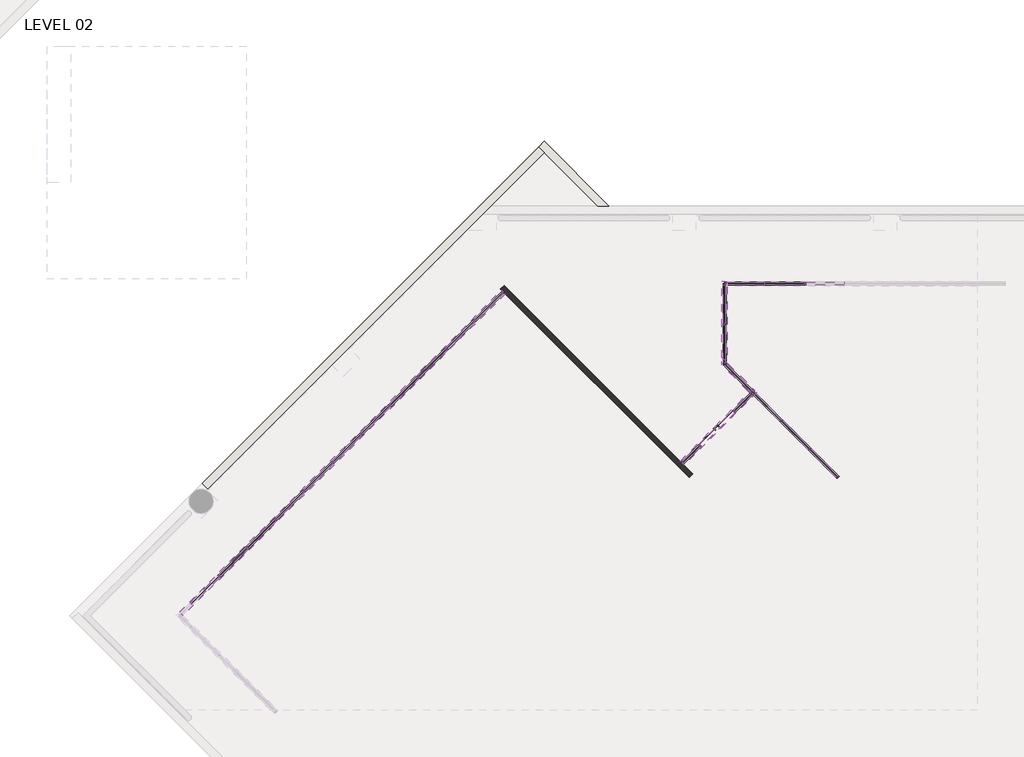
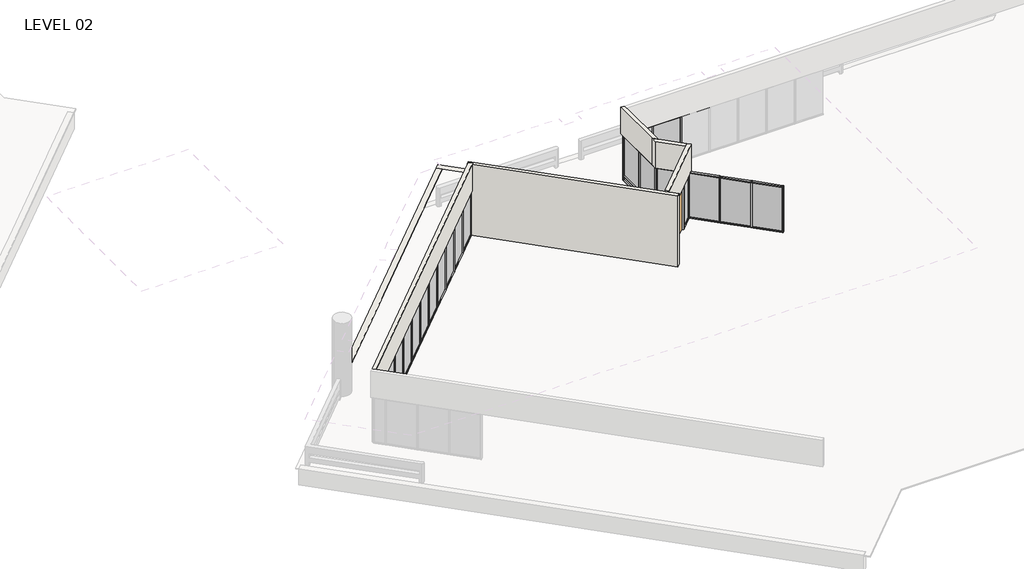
# One storey, part 7 of 19: 81 members, 21 plates, 7 walls, 1 door.
"""IFC4 building model written with IfcOpenShell, lengths in millimetres."""

from ifc_helpers import new_model, si_unit, frame, origin, place, context, project, spatial, polyline, outline, extrude, faceted_brep, transform, mapped, element, save
from components import curtain_wall_dbl_glass_curtain_wall_dbl_glass_222e0a92, member_5247f267, member_e44af9ab, member_800970d4, member_35b16393, member_cca1f9e6, member_67d17f7f, member_d5560c68, member_05e6bac6, plate_67294edd, plate_aaac5d3d, plate_5a14c350, plate_4fb64caf, plate_748a28b9

model = new_model("IFC4")

# Units and contexts
model_context = context("Model", 3, world=origin())
ifc_project = project(units=[si_unit("LENGTHUNIT", "METRE", prefix="MILLI")], contexts=[model_context])

# Site, building, storey
site = spatial("IfcSite", under=ifc_project)
building = spatial("IfcBuilding", under=site)
storey = spatial("IfcBuildingStorey", under=building, Name="LEVEL 02", Elevation=4140.2)

# Door
placement = place(None, origin())
curtain_wall_dbl_glass_curtain_wall_dbl_glass_shape = curtain_wall_dbl_glass_curtain_wall_dbl_glass_222e0a92(model_context)
element("IfcDoor", 1, ObjectType="Curtain Wall Dbl Glass : Curtain Wall Dbl Glass", at=placement, inside=storey, context=model_context, shape_type="MappedRepresentation", body=[
    mapped(curtain_wall_dbl_glass_curtain_wall_dbl_glass_shape, transform((19633.6601484, 17599.7315515, 4140.2), x_axis=(-0.7071067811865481, -0.7071067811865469, 0.0), y_axis=(0.7071067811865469, -0.7071067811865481, 0.0), z_axis=(0.0, 0.0, 1.0))),
])

# Members
member_shape = member_5247f267(model_context)
element("IfcMember", 2, ObjectType="Rectangular Mullion : 2\" x 4.5\" rectangular", at=placement, inside=storey, context=model_context, shape_type="MappedRepresentation", body=[
    mapped(member_shape, transform((772.3020264, 12012.4904011, 4140.2), x_axis=(0.0, 0.0, -1.0), y_axis=(0.7071067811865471, -0.707106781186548, 0.0), z_axis=(-0.7071067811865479, -0.707106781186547, 0.0))),
])
element("IfcMember", 3, ObjectType="Rectangular Mullion : 2\" x 4.5\" rectangular", at=placement, inside=storey, context=model_context, shape_type="MappedRepresentation", body=[
    mapped(member_shape, transform((4005.1646265, 15245.3530013, 4140.2), x_axis=(0.0, 0.0, -1.0), y_axis=(0.7071067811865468, -0.7071067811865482, 0.0), z_axis=(-0.7071067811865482, -0.7071067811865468, 0.0))),
])
element("IfcMember", 4, ObjectType="Rectangular Mullion : 2\" x 4.5\" rectangular", at=placement, inside=storey, context=model_context, shape_type="MappedRepresentation", body=[
    mapped(member_shape, transform((6160.3964921, 17400.5848669, 4140.2), x_axis=(0.0, 0.0, -1.0), y_axis=(0.7071067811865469, -0.7071067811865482, 0.0), z_axis=(-0.7071067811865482, -0.7071067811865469, 0.0))),
])
element("IfcMember", 5, ObjectType="Rectangular Mullion : 2\" x 4.5\" rectangular", at=placement, inside=storey, context=model_context, shape_type="MappedRepresentation", body=[
    mapped(member_shape, transform((7238.012425, 18478.2007997, 4140.2), x_axis=(0.0, 0.0, -1.0), y_axis=(0.7071067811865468, -0.7071067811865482, 0.0), z_axis=(-0.7071067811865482, -0.7071067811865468, 0.0))),
])
element("IfcMember", 6, ObjectType="Rectangular Mullion : 2\" x 4.5\" rectangular", at=placement, inside=storey, context=model_context, shape_type="MappedRepresentation", body=[
    mapped(member_shape, transform((9393.273894, 20633.4622687, 4140.2), x_axis=(0.0, 0.0, -1.0), y_axis=(0.7071067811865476, -0.7071067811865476, 0.0), z_axis=(-0.7071067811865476, -0.7071067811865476, 0.0))),
])
element("IfcMember", 7, ObjectType="Rectangular Mullion : 2\" x 4.5\" rectangular", at=placement, inside=storey, context=model_context, shape_type="MappedRepresentation", body=[
    mapped(member_shape, transform((1849.9327609, 13090.1211357, 4140.2), x_axis=(0.0, 0.0, -1.0), y_axis=(0.7071067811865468, -0.7071067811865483, 0.0), z_axis=(-0.7071067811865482, -0.7071067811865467, 0.0))),
])
element("IfcMember", 8, ObjectType="Rectangular Mullion : 2\" x 4.5\" rectangular", at=placement, inside=storey, context=model_context, shape_type="MappedRepresentation", body=[
    mapped(member_shape, transform((5082.7805593, 16322.9689341, 4140.2), x_axis=(0.0, 0.0, -1.0), y_axis=(0.7071067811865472, -0.7071067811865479, 0.0), z_axis=(-0.7071067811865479, -0.7071067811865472, 0.0))),
])
element("IfcMember", 9, ObjectType="Rectangular Mullion : 2\" x 4.5\" rectangular", at=placement, inside=storey, context=model_context, shape_type="MappedRepresentation", body=[
    mapped(member_shape, transform((2927.5486937, 14167.7370685, 4140.2), x_axis=(0.0, 0.0, -1.0), y_axis=(0.7071067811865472, -0.7071067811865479, 0.0), z_axis=(-0.7071067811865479, -0.7071067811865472, 0.0))),
])
element("IfcMember", 10, ObjectType="Rectangular Mullion : 2\" x 4.5\" rectangular", at=placement, inside=storey, context=model_context, shape_type="MappedRepresentation", body=[
    mapped(member_shape, transform((8315.6431595, 19555.8315342, 4140.2), x_axis=(0.0, 0.0, -1.0), y_axis=(0.7071067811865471, -0.7071067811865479, 0.0), z_axis=(-0.7071067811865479, -0.7071067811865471, 0.0))),
])
element("IfcMember", 11, ObjectType="Rectangular Mullion : 2\" x 4.5\" rectangular", at=placement, inside=storey, context=model_context, shape_type="MappedRepresentation", body=[
    mapped(member_shape, transform((22942.55, 23089.2828721, 4140.2), x_axis=(0.0, 0.0, -1.0), y_axis=(0.0, 1.0, 0.0), z_axis=(1.0, 0.0, 0.0))),
])
element("IfcMember", 12, ObjectType="Rectangular Mullion : 2\" x 4.5\" rectangular", at=placement, inside=storey, context=model_context, shape_type="MappedRepresentation", body=[
    mapped(member_shape, transform((21015.5412468, 18945.6916253, 4140.2), x_axis=(0.0, 0.0, -1.0), y_axis=(-0.7071067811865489, -0.7071067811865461, 0.0), z_axis=(-0.7071067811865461, 0.7071067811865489, 0.0))),
])
element("IfcMember", 13, ObjectType="Rectangular Mullion : 2\" x 4.5\" rectangular", at=placement, inside=storey, context=model_context, shape_type="MappedRepresentation", body=[
    mapped(member_shape, transform((22093.1719813, 17868.0608908, 4140.2), x_axis=(0.0, 0.0, -1.0), y_axis=(-0.7071067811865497, -0.7071067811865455, 0.0), z_axis=(-0.7071067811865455, 0.7071067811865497, 0.0))),
])
element("IfcMember", 14, ObjectType="Rectangular Mullion : 2\" x 4.5\" rectangular", at=placement, inside=storey, context=model_context, shape_type="MappedRepresentation", body=[
    mapped(member_shape, transform((736.3810019, 11976.5693766, 6731.0), x_axis=(0.0, 0.0, 1.0), y_axis=(0.7071067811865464, -0.7071067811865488, 0.0), z_axis=(0.7071067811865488, 0.7071067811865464, 0.0))),
])
element("IfcMember", 15, ObjectType="Rectangular Mullion : 2\" x 4.5\" rectangular", at=placement, inside=storey, context=model_context, shape_type="MappedRepresentation", body=[
    mapped(member_shape, transform((3969.2436021, 15209.4319768, 6731.0), x_axis=(0.0, 0.0, 1.0), y_axis=(0.7071067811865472, -0.7071067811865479, 0.0), z_axis=(0.7071067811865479, 0.7071067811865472, 0.0))),
])
element("IfcMember", 16, ObjectType="Rectangular Mullion : 2\" x 4.5\" rectangular", at=placement, inside=storey, context=model_context, shape_type="MappedRepresentation", body=[
    mapped(member_shape, transform((6124.4754677, 17364.6638424, 6731.0), x_axis=(0.0, 0.0, 1.0), y_axis=(0.7071067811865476, -0.7071067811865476, 0.0), z_axis=(0.7071067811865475, 0.7071067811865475, 0.0))),
])
element("IfcMember", 17, ObjectType="Rectangular Mullion : 2\" x 4.5\" rectangular", at=placement, inside=storey, context=model_context, shape_type="MappedRepresentation", body=[
    mapped(member_shape, transform((7202.0914005, 18442.2797752, 6731.0), x_axis=(0.0, 0.0, 1.0), y_axis=(0.7071067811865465, -0.7071067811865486, 0.0), z_axis=(0.7071067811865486, 0.7071067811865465, 0.0))),
])
element("IfcMember", 18, ObjectType="Rectangular Mullion : 2\" x 4.5\" rectangular", at=placement, inside=storey, context=model_context, shape_type="MappedRepresentation", body=[
    mapped(member_shape, transform((9357.3528695, 20597.5412442, 6731.0), x_axis=(0.0, 0.0, 1.0), y_axis=(0.7071067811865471, -0.7071067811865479, 0.0), z_axis=(0.7071067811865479, 0.7071067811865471, 0.0))),
])
element("IfcMember", 19, ObjectType="Rectangular Mullion : 2\" x 4.5\" rectangular", at=placement, inside=storey, context=model_context, shape_type="MappedRepresentation", body=[
    mapped(member_shape, transform((1814.0117365, 13054.2001112, 6731.0), x_axis=(0.0, 0.0, 1.0), y_axis=(0.7071067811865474, -0.7071067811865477, 0.0), z_axis=(0.7071067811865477, 0.7071067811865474, 0.0))),
])
element("IfcMember", 20, ObjectType="Rectangular Mullion : 2\" x 4.5\" rectangular", at=placement, inside=storey, context=model_context, shape_type="MappedRepresentation", body=[
    mapped(member_shape, transform((5046.8595349, 16287.0479096, 6731.0), x_axis=(0.0, 0.0, 1.0), y_axis=(0.7071067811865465, -0.7071067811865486, 0.0), z_axis=(0.7071067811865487, 0.7071067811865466, 0.0))),
])
element("IfcMember", 21, ObjectType="Rectangular Mullion : 2\" x 4.5\" rectangular", at=placement, inside=storey, context=model_context, shape_type="MappedRepresentation", body=[
    mapped(member_shape, transform((2891.6276693, 14131.816044, 6731.0), x_axis=(0.0, 0.0, 1.0), y_axis=(0.7071067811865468, -0.7071067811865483, 0.0), z_axis=(0.7071067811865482, 0.7071067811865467, 0.0))),
])
element("IfcMember", 22, ObjectType="Rectangular Mullion : 2\" x 4.5\" rectangular", at=placement, inside=storey, context=model_context, shape_type="MappedRepresentation", body=[
    mapped(member_shape, transform((8279.722135, 19519.9105097, 6731.0), x_axis=(0.0, 0.0, 1.0), y_axis=(0.7071067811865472, -0.7071067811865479, 0.0), z_axis=(0.7071067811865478, 0.7071067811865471, 0.0))),
])
element("IfcMember", 23, ObjectType="Rectangular Mullion : 2\" x 4.5\" rectangular", at=placement, inside=storey, context=model_context, shape_type="MappedRepresentation", body=[
    mapped(member_shape, transform((10434.9836041, 21675.1719788, 6731.0), x_axis=(0.0, 0.0, 1.0), y_axis=(0.7071067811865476, -0.7071067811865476, 0.0), z_axis=(0.7071067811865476, 0.7071067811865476, 0.0))),
])
element("IfcMember", 24, ObjectType="Rectangular Mullion : 2\" x 4.5\" rectangular", at=placement, inside=storey, context=model_context, shape_type="MappedRepresentation", body=[
    mapped(member_shape, transform((21469.35, 23089.2828721, 6731.0), x_axis=(0.0, 0.0, 1.0), y_axis=(0.0, 1.0, 0.0), z_axis=(-1.0, 0.0, 0.0))),
])
element("IfcMember", 25, ObjectType="Rectangular Mullion : 2\" x 4.5\" rectangular", at=placement, inside=storey, context=model_context, shape_type="MappedRepresentation", body=[
    mapped(member_shape, transform((22993.35, 23089.2828721, 6731.0), x_axis=(0.0, 0.0, 1.0), y_axis=(0.0, 1.0, 0.0), z_axis=(-1.0, 0.0, 0.0))),
])
element("IfcMember", 26, ObjectType="Rectangular Mullion : 2\" x 4.5\" rectangular", at=placement, inside=storey, context=model_context, shape_type="MappedRepresentation", body=[
    mapped(member_shape, transform((23134.8816913, 16826.3511808, 6731.0), x_axis=(0.0, 0.0, 1.0), y_axis=(-0.7071067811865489, -0.7071067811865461, 0.0), z_axis=(0.7071067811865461, -0.7071067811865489, 0.0))),
])
element("IfcMember", 27, ObjectType="Rectangular Mullion : 2\" x 4.5\" rectangular", at=placement, inside=storey, context=model_context, shape_type="MappedRepresentation", body=[
    mapped(member_shape, transform((22057.2509568, 17903.9819153, 6731.0), x_axis=(0.0, 0.0, 1.0), y_axis=(-0.7071067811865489, -0.7071067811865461, 0.0), z_axis=(0.7071067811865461, -0.7071067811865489, 0.0))),
])
member_2_shape = member_e44af9ab(model_context)
element("IfcMember", 28, ObjectType="Rectangular Mullion : 2\" x 4.5\" rectangular", at=placement, inside=storey, context=model_context, shape_type="MappedRepresentation", body=[
    mapped(member_2_shape, transform((754.3415142, 11994.5298889, 4140.2), x_axis=(0.7071067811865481, 0.7071067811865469, 0.0), y_axis=(0.7071067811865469, -0.7071067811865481, 0.0), z_axis=(0.0, 0.0, -1.0))),
])
element("IfcMember", 29, ObjectType="Rectangular Mullion : 2\" x 4.5\" rectangular", at=placement, inside=storey, context=model_context, shape_type="MappedRepresentation", body=[
    mapped(member_2_shape, transform((3987.2041143, 15227.392489, 4140.2), x_axis=(0.7071067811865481, 0.7071067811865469, 0.0), y_axis=(0.7071067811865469, -0.7071067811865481, 0.0), z_axis=(0.0, 0.0, -1.0))),
])
element("IfcMember", 30, ObjectType="Rectangular Mullion : 2\" x 4.5\" rectangular", at=placement, inside=storey, context=model_context, shape_type="MappedRepresentation", body=[
    mapped(member_2_shape, transform((6142.4359799, 17382.6243546, 4140.2), x_axis=(0.7071067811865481, 0.7071067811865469, 0.0), y_axis=(0.7071067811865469, -0.7071067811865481, 0.0), z_axis=(0.0, 0.0, -1.0))),
])
element("IfcMember", 31, ObjectType="Rectangular Mullion : 2\" x 4.5\" rectangular", at=placement, inside=storey, context=model_context, shape_type="MappedRepresentation", body=[
    mapped(member_2_shape, transform((7220.0519127, 18460.2402874, 4140.2), x_axis=(0.7071067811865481, 0.7071067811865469, 0.0), y_axis=(0.7071067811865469, -0.7071067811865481, 0.0), z_axis=(0.0, 0.0, -1.0))),
])
element("IfcMember", 32, ObjectType="Rectangular Mullion : 2\" x 4.5\" rectangular", at=placement, inside=storey, context=model_context, shape_type="MappedRepresentation", body=[
    mapped(member_2_shape, transform((9375.3133818, 20615.5017565, 4140.2), x_axis=(0.7071067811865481, 0.7071067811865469, 0.0), y_axis=(0.7071067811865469, -0.7071067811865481, 0.0), z_axis=(0.0, 0.0, -1.0))),
])
element("IfcMember", 33, ObjectType="Rectangular Mullion : 2\" x 4.5\" rectangular", at=placement, inside=storey, context=model_context, shape_type="MappedRepresentation", body=[
    mapped(member_2_shape, transform((1831.9722487, 13072.1606234, 4140.2), x_axis=(0.7071067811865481, 0.7071067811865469, 0.0), y_axis=(0.7071067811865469, -0.7071067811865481, 0.0), z_axis=(0.0, 0.0, -1.0))),
])
element("IfcMember", 34, ObjectType="Rectangular Mullion : 2\" x 4.5\" rectangular", at=placement, inside=storey, context=model_context, shape_type="MappedRepresentation", body=[
    mapped(member_2_shape, transform((5064.8200471, 16305.0084218, 4140.2), x_axis=(0.7071067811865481, 0.7071067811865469, 0.0), y_axis=(0.7071067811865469, -0.7071067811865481, 0.0), z_axis=(0.0, 0.0, -1.0))),
])
element("IfcMember", 35, ObjectType="Rectangular Mullion : 2\" x 4.5\" rectangular", at=placement, inside=storey, context=model_context, shape_type="MappedRepresentation", body=[
    mapped(member_2_shape, transform((2909.5881815, 14149.7765562, 4140.2), x_axis=(0.7071067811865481, 0.7071067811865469, 0.0), y_axis=(0.7071067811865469, -0.7071067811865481, 0.0), z_axis=(0.0, 0.0, -1.0))),
])
element("IfcMember", 36, ObjectType="Rectangular Mullion : 2\" x 4.5\" rectangular", at=placement, inside=storey, context=model_context, shape_type="MappedRepresentation", body=[
    mapped(member_2_shape, transform((8297.6826472, 19537.871022, 4140.2), x_axis=(0.7071067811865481, 0.7071067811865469, 0.0), y_axis=(0.7071067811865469, -0.7071067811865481, 0.0), z_axis=(0.0, 0.0, -1.0))),
])
element("IfcMember", 37, ObjectType="Rectangular Mullion : 2\" x 4.5\" rectangular", at=placement, inside=storey, context=model_context, shape_type="MappedRepresentation", body=[
    mapped(member_2_shape, transform((10452.9441163, 21693.132491, 4140.2), x_axis=(0.7071067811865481, 0.7071067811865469, 0.0), y_axis=(0.7071067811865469, -0.7071067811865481, 0.0), z_axis=(0.0, 0.0, -1.0))),
])
element("IfcMember", 38, ObjectType="Rectangular Mullion : 2\" x 4.5\" rectangular", at=placement, inside=storey, context=model_context, shape_type="MappedRepresentation", body=[
    mapped(member_2_shape, transform((21443.95, 23089.2828721, 4140.2), x_axis=(-1.0, 0.0, 0.0), y_axis=(0.0, 1.0, 0.0), z_axis=(0.0, 0.0, -1.0))),
])
element("IfcMember", 39, ObjectType="Rectangular Mullion : 2\" x 4.5\" rectangular", at=placement, inside=storey, context=model_context, shape_type="MappedRepresentation", body=[
    mapped(member_2_shape, transform((22967.95, 23089.2828721, 4140.2), x_axis=(-1.0, 0.0, 0.0), y_axis=(0.0, 1.0, 0.0), z_axis=(0.0, 0.0, -1.0))),
])
element("IfcMember", 40, ObjectType="Rectangular Mullion : 2\" x 4.5\" rectangular", at=placement, inside=storey, context=model_context, shape_type="MappedRepresentation", body=[
    mapped(member_2_shape, transform((19919.95, 21565.2828721, 4140.2), x_axis=(0.0, -1.0, 0.0), y_axis=(-1.0, 0.0, 0.0), z_axis=(0.0, 0.0, -1.0))),
])
element("IfcMember", 41, ObjectType="Rectangular Mullion : 2\" x 4.5\" rectangular", at=placement, inside=storey, context=model_context, shape_type="MappedRepresentation", body=[
    mapped(member_2_shape, transform((20997.5807345, 18963.6521376, 4140.2), x_axis=(0.7071067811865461, -0.707106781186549, 0.0), y_axis=(-0.707106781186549, -0.7071067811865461, 0.0), z_axis=(0.0, 0.0, -1.0))),
])
element("IfcMember", 42, ObjectType="Rectangular Mullion : 2\" x 4.5\" rectangular", at=placement, inside=storey, context=model_context, shape_type="MappedRepresentation", body=[
    mapped(member_2_shape, transform((23152.8422036, 16808.3906685, 4140.2), x_axis=(0.7071067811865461, -0.707106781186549, 0.0), y_axis=(-0.707106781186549, -0.7071067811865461, 0.0), z_axis=(0.0, 0.0, -1.0))),
])
element("IfcMember", 43, ObjectType="Rectangular Mullion : 2\" x 4.5\" rectangular", at=placement, inside=storey, context=model_context, shape_type="MappedRepresentation", body=[
    mapped(member_2_shape, transform((22075.2114691, 17886.0214031, 4140.2), x_axis=(0.7071067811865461, -0.707106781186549, 0.0), y_axis=(-0.707106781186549, -0.7071067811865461, 0.0), z_axis=(0.0, 0.0, -1.0))),
])
element("IfcMember", 44, ObjectType="Rectangular Mullion : 2\" x 4.5\" rectangular", at=placement, inside=storey, context=model_context, shape_type="MappedRepresentation", body=[
    mapped(member_2_shape, transform((20280.2385891, 18246.3099922, 4140.2), x_axis=(-0.7071067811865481, -0.7071067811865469, 0.0), y_axis=(-0.7071067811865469, 0.7071067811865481, 0.0), z_axis=(0.0, 0.0, -1.0))),
])
element("IfcMember", 45, ObjectType="Rectangular Mullion : 2\" x 4.5\" rectangular", at=placement, inside=storey, context=model_context, shape_type="MappedRepresentation", body=[
    mapped(member_2_shape, transform((18987.0817077, 16953.1531108, 4140.2), x_axis=(-0.7071067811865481, -0.7071067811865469, 0.0), y_axis=(-0.7071067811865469, 0.7071067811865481, 0.0), z_axis=(0.0, 0.0, -1.0))),
])
member_3_shape = member_800970d4(model_context)
element("IfcMember", 46, ObjectType="Rectangular Mullion : 2\" x 4.5\" rectangular", at=placement, inside=storey, context=model_context, shape_type="MappedRepresentation", body=[
    mapped(member_3_shape, transform((11530.5748508, 22770.7632255, 4140.2), x_axis=(0.7071067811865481, 0.7071067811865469, 0.0), y_axis=(0.7071067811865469, -0.7071067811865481, 0.0), z_axis=(0.0, 0.0, -1.0))),
])
element("IfcMember", 47, ObjectType="Rectangular Mullion : 2\" x 4.5\" rectangular", at=placement, inside=storey, context=model_context, shape_type="MappedRepresentation", body=[
    mapped(member_3_shape, transform((19919.95, 23089.2828721, 4140.2), x_axis=(-1.0, 0.0, 0.0), y_axis=(0.0, 1.0, 0.0), z_axis=(0.0, 0.0, -1.0))),
])
element("IfcMember", 48, ObjectType="Rectangular Mullion : 2\" x 4.5\" rectangular", at=placement, inside=storey, context=model_context, shape_type="MappedRepresentation", body=[
    mapped(member_3_shape, transform((19919.95, 20041.2828721, 4140.2), x_axis=(0.0, -1.0, 0.0), y_axis=(-1.0, 0.0, 0.0), z_axis=(0.0, 0.0, -1.0))),
])
element("IfcMember", 49, ObjectType="Rectangular Mullion : 2\" x 4.5\" rectangular", at=placement, inside=storey, context=model_context, shape_type="MappedRepresentation", body=[
    mapped(member_3_shape, transform((24230.4729381, 15730.759934, 4140.2), x_axis=(0.7071067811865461, -0.707106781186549, 0.0), y_axis=(-0.707106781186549, -0.7071067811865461, 0.0), z_axis=(0.0, 0.0, -1.0))),
])
element("IfcMember", 50, ObjectType="Rectangular Mullion : 2\" x 4.5\" rectangular", at=placement, inside=storey, context=model_context, shape_type="MappedRepresentation", body=[
    mapped(member_3_shape, transform((18311.3174346, 16277.3888377, 4140.2), x_axis=(-0.7071067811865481, -0.7071067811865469, 0.0), y_axis=(-0.7071067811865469, 0.7071067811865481, 0.0), z_axis=(0.0, 0.0, -1.0))),
])
element("IfcMember", 51, ObjectType="Rectangular Mullion : 2\" x 4.5\" rectangular", at=placement, inside=storey, context=model_context, shape_type="MappedRepresentation", body=[
    mapped(member_3_shape, transform((19919.95, 23089.2828721, 6731.0), x_axis=(0.0, 1.0, 0.0), y_axis=(-1.0, 0.0, 0.0), z_axis=(0.0, 0.0, 1.0))),
])
element("IfcMember", 52, ObjectType="Rectangular Mullion : 2\" x 4.5\" rectangular", at=placement, inside=storey, context=model_context, shape_type="MappedRepresentation", body=[
    mapped(member_3_shape, transform((19919.95, 20041.2828721, 6731.0), x_axis=(-0.7071067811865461, 0.707106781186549, 0.0), y_axis=(-0.707106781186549, -0.7071067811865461, 0.0), z_axis=(0.0, 0.0, 1.0))),
])
element("IfcMember", 53, ObjectType="Rectangular Mullion : 2\" x 4.5\" rectangular", at=placement, inside=storey, context=model_context, shape_type="MappedRepresentation", body=[
    mapped(member_3_shape, transform((20957.169582, 18923.240985, 6731.0), x_axis=(0.7071067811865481, 0.7071067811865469, 0.0), y_axis=(-0.7071067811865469, 0.7071067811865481, 0.0), z_axis=(0.0, 0.0, 1.0))),
])
member_4_shape = member_35b16393(model_context)
element("IfcMember", 54, ObjectType="Rectangular Mullion : 2\" x 4.5\" rectangular", at=placement, inside=storey, context=model_context, shape_type="MappedRepresentation", body=[
    mapped(member_4_shape, transform((19919.95, 21565.2828721, -914.4), x_axis=(0.0, -1.0, 0.0), y_axis=(-1.0, 0.0, 0.0), z_axis=(0.0, 0.0, -1.0))),
])
element("IfcMember", 55, ObjectType="Rectangular Mullion : 2\" x 4.5\" rectangular", at=placement, inside=storey, context=model_context, shape_type="MappedRepresentation", body=[
    mapped(member_4_shape, transform((19919.95, 21565.2828721, -914.4), x_axis=(0.0, -1.0, 0.0), y_axis=(-1.0, 0.0, 0.0), z_axis=(0.0, 0.0, -1.0))),
])
element("IfcMember", 56, ObjectType="Rectangular Mullion : 2\" x 4.5\" rectangular", at=placement, inside=storey, context=model_context, shape_type="MappedRepresentation", body=[
    mapped(member_4_shape, transform((19919.95, 21565.2828721, -914.4), x_axis=(0.0, -1.0, 0.0), y_axis=(-1.0, 0.0, 0.0), z_axis=(0.0, 0.0, -1.0))),
])
element("IfcMember", 57, ObjectType="Rectangular Mullion : 2\" x 4.5\" rectangular", at=placement, inside=storey, context=model_context, shape_type="MappedRepresentation", body=[
    mapped(member_4_shape, transform((19919.95, 21565.2828721, -914.4), x_axis=(0.0, -1.0, 0.0), y_axis=(-1.0, 0.0, 0.0), z_axis=(0.0, 0.0, -1.0))),
])
member_5_shape = member_cca1f9e6(model_context)
element("IfcMember", 58, ObjectType="Rectangular Mullion : 2\" x 4.5\" rectangular", at=placement, inside=storey, context=model_context, shape_type="MappedRepresentation", body=[
    mapped(member_5_shape, transform((11494.6538263, 22734.8422011, 6731.0), x_axis=(0.0, 0.0, 1.0), y_axis=(0.7071067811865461, -0.707106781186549, 0.0), z_axis=(0.7071067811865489, 0.707106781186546, 0.0))),
])
element("IfcMember", 59, ObjectType="Rectangular Mullion : 2\" x 4.5\" rectangular", at=placement, inside=storey, context=model_context, shape_type="MappedRepresentation", body=[
    mapped(member_5_shape, transform((19970.75, 23089.2828721, 6731.0), x_axis=(0.0, 0.0, 1.0), y_axis=(0.0, 1.0, 0.0), z_axis=(-1.0, 0.0, 0.0))),
])
element("IfcMember", 60, ObjectType="Rectangular Mullion : 2\" x 4.5\" rectangular", at=placement, inside=storey, context=model_context, shape_type="MappedRepresentation", body=[
    mapped(member_5_shape, transform((19919.95, 20092.0828721, 6731.0), x_axis=(0.0, 0.0, 1.0), y_axis=(-1.0, 0.0, 0.0), z_axis=(0.0, -1.0, 0.0))),
])
element("IfcMember", 61, ObjectType="Rectangular Mullion : 2\" x 4.5\" rectangular", at=placement, inside=storey, context=model_context, shape_type="MappedRepresentation", body=[
    mapped(member_5_shape, transform((19919.95, 21590.6828721, 4445.0), x_axis=(0.0, 0.0, 1.0), y_axis=(-1.0, 0.0, 0.0), z_axis=(0.0, -1.0, 0.0))),
])
element("IfcMember", 62, ObjectType="Rectangular Mullion : 2\" x 4.5\" rectangular", at=placement, inside=storey, context=model_context, shape_type="MappedRepresentation", body=[
    mapped(member_5_shape, transform((19919.95, 21590.6828721, 6731.0), x_axis=(0.0, 0.0, 1.0), y_axis=(-1.0, 0.0, 0.0), z_axis=(0.0, -1.0, 0.0))),
])
element("IfcMember", 63, ObjectType="Rectangular Mullion : 2\" x 4.5\" rectangular", at=placement, inside=storey, context=model_context, shape_type="MappedRepresentation", body=[
    mapped(member_5_shape, transform((24194.5519136, 15766.6809585, 6731.0), x_axis=(0.0, 0.0, 1.0), y_axis=(-0.7071067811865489, -0.7071067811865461, 0.0), z_axis=(0.7071067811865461, -0.7071067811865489, 0.0))),
])
element("IfcMember", 64, ObjectType="Rectangular Mullion : 2\" x 4.5\" rectangular", at=placement, inside=storey, context=model_context, shape_type="MappedRepresentation", body=[
    mapped(member_5_shape, transform((20979.6202223, 18981.6126498, 6731.0), x_axis=(0.0, 0.0, 1.0), y_axis=(-0.707106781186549, -0.7071067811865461, 0.0), z_axis=(0.707106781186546, -0.7071067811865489, 0.0))),
])
element("IfcMember", 65, ObjectType="Rectangular Mullion : 2\" x 4.5\" rectangular", at=placement, inside=storey, context=model_context, shape_type="MappedRepresentation", body=[
    mapped(member_5_shape, transform((19919.95, 21590.6828721, 4445.0), x_axis=(0.0, 0.0, 1.0), y_axis=(-1.0, 0.0, 0.0), z_axis=(0.0, -1.0, 0.0))),
])
element("IfcMember", 66, ObjectType="Rectangular Mullion : 2\" x 4.5\" rectangular", at=placement, inside=storey, context=model_context, shape_type="MappedRepresentation", body=[
    mapped(member_5_shape, transform((19919.95, 21590.6828721, 4445.0), x_axis=(0.0, 0.0, 1.0), y_axis=(-1.0, 0.0, 0.0), z_axis=(0.0, -1.0, 0.0))),
])
element("IfcMember", 67, ObjectType="Rectangular Mullion : 2\" x 4.5\" rectangular", at=placement, inside=storey, context=model_context, shape_type="MappedRepresentation", body=[
    mapped(member_5_shape, transform((19919.95, 21590.6828721, 4445.0), x_axis=(0.0, 0.0, 1.0), y_axis=(-1.0, 0.0, 0.0), z_axis=(0.0, -1.0, 0.0))),
])
element("IfcMember", 68, ObjectType="Rectangular Mullion : 2\" x 4.5\" rectangular", at=placement, inside=storey, context=model_context, shape_type="MappedRepresentation", body=[
    mapped(member_5_shape, transform((10470.9046285, 21711.0930033, 4140.2), x_axis=(0.0, 0.0, -1.0), y_axis=(0.7071067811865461, -0.707106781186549, 0.0), z_axis=(-0.7071067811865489, -0.707106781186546, 0.0))),
])
element("IfcMember", 69, ObjectType="Rectangular Mullion : 2\" x 4.5\" rectangular", at=placement, inside=storey, context=model_context, shape_type="MappedRepresentation", body=[
    mapped(member_5_shape, transform((19919.95, 23038.4828721, 4140.2), x_axis=(0.0, 0.0, -1.0), y_axis=(-1.0, 0.0, 0.0), z_axis=(0.0, 1.0, 0.0))),
])
element("IfcMember", 70, ObjectType="Rectangular Mullion : 2\" x 4.5\" rectangular", at=placement, inside=storey, context=model_context, shape_type="MappedRepresentation", body=[
    mapped(member_5_shape, transform((19919.95, 21539.8828721, -914.4), x_axis=(0.0, 0.0, -1.0), y_axis=(-1.0, 0.0, 0.0), z_axis=(0.0, 1.0, 0.0))),
])
element("IfcMember", 71, ObjectType="Rectangular Mullion : 2\" x 4.5\" rectangular", at=placement, inside=storey, context=model_context, shape_type="MappedRepresentation", body=[
    mapped(member_5_shape, transform((21418.55, 23089.2828721, 4140.2), x_axis=(0.0, 0.0, -1.0), y_axis=(0.0, 1.0, 0.0), z_axis=(1.0, 0.0, 0.0))),
])
element("IfcMember", 72, ObjectType="Rectangular Mullion : 2\" x 4.5\" rectangular", at=placement, inside=storey, context=model_context, shape_type="MappedRepresentation", body=[
    mapped(member_5_shape, transform((19919.95, 21539.8828721, 4140.2), x_axis=(0.0, 0.0, -1.0), y_axis=(-1.0, 0.0, 0.0), z_axis=(0.0, 1.0, 0.0))),
])
element("IfcMember", 73, ObjectType="Rectangular Mullion : 2\" x 4.5\" rectangular", at=placement, inside=storey, context=model_context, shape_type="MappedRepresentation", body=[
    mapped(member_5_shape, transform((19955.8710245, 20005.3618476, 4140.2), x_axis=(0.0, 0.0, -1.0), y_axis=(-0.707106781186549, -0.7071067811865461, 0.0), z_axis=(-0.707106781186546, 0.7071067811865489, 0.0))),
])
element("IfcMember", 74, ObjectType="Rectangular Mullion : 2\" x 4.5\" rectangular", at=placement, inside=storey, context=model_context, shape_type="MappedRepresentation", body=[
    mapped(member_5_shape, transform((23170.8027158, 16790.4301563, 4140.2), x_axis=(0.0, 0.0, -1.0), y_axis=(-0.7071067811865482, -0.7071067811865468, 0.0), z_axis=(-0.7071067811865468, 0.7071067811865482, 0.0))),
])
element("IfcMember", 75, ObjectType="Rectangular Mullion : 2\" x 4.5\" rectangular", at=placement, inside=storey, context=model_context, shape_type="MappedRepresentation", body=[
    mapped(member_5_shape, transform((19919.95, 21539.8828721, -914.4), x_axis=(0.0, 0.0, -1.0), y_axis=(-1.0, 0.0, 0.0), z_axis=(0.0, 1.0, 0.0))),
])
element("IfcMember", 76, ObjectType="Rectangular Mullion : 2\" x 4.5\" rectangular", at=placement, inside=storey, context=model_context, shape_type="MappedRepresentation", body=[
    mapped(member_5_shape, transform((19919.95, 21539.8828721, -914.4), x_axis=(0.0, 0.0, -1.0), y_axis=(-1.0, 0.0, 0.0), z_axis=(0.0, 1.0, 0.0))),
])
element("IfcMember", 77, ObjectType="Rectangular Mullion : 2\" x 4.5\" rectangular", at=placement, inside=storey, context=model_context, shape_type="MappedRepresentation", body=[
    mapped(member_5_shape, transform((19919.95, 21539.8828721, -914.4), x_axis=(0.0, 0.0, -1.0), y_axis=(-1.0, 0.0, 0.0), z_axis=(0.0, 1.0, 0.0))),
])
member_6_shape = member_67d17f7f(model_context)
element("IfcMember", 78, ObjectType="Rectangular Mullion : 2\" x 4.5\" rectangular", at=placement, inside=storey, context=model_context, shape_type="MappedRepresentation", body=[
    mapped(member_6_shape, transform((18347.2384591, 16313.3098621, 6731.0), x_axis=(0.0, 0.0, 1.0), y_axis=(-0.7071067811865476, 0.7071067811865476, 0.0), z_axis=(-0.7071067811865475, -0.7071067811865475, 0.0))),
])
element("IfcMember", 79, ObjectType="Rectangular Mullion : 2\" x 4.5\" rectangular", at=placement, inside=storey, context=model_context, shape_type="MappedRepresentation", body=[
    mapped(member_6_shape, transform((18969.1211955, 16935.1925985, 4140.2), x_axis=(0.0, 0.0, -1.0), y_axis=(-0.7071067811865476, 0.7071067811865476, 0.0), z_axis=(0.7071067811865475, 0.7071067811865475, 0.0))),
])
member_7_shape = member_d5560c68(model_context)
element("IfcMember", 80, ObjectType="Rectangular Mullion : 2\" x 4.5\" rectangular", at=placement, inside=storey, context=model_context, shape_type="MappedRepresentation", body=[
    mapped(member_7_shape, transform((20921.2485575, 18887.3199606, 4140.2), x_axis=(0.0, 0.0, -1.0), y_axis=(-0.7071067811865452, 0.7071067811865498, 0.0), z_axis=(0.7071067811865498, 0.7071067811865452, 0.0))),
])
element("IfcMember", 81, ObjectType="Rectangular Mullion : 2\" x 4.5\" rectangular", at=placement, inside=storey, context=model_context, shape_type="MappedRepresentation", body=[
    mapped(member_7_shape, transform((20298.1991014, 18264.2705044, 6731.0), x_axis=(0.0, 0.0, 1.0), y_axis=(-0.7071067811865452, 0.7071067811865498, 0.0), z_axis=(-0.7071067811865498, -0.7071067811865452, 0.0))),
])
member_8_shape = member_05e6bac6(model_context)
element("IfcMember", 82, ObjectType="Rectangular Mullion : 2\" x 4.5\" rectangular", at=placement, inside=storey, context=model_context, shape_type="MappedRepresentation", body=[
    mapped(member_8_shape, transform((19005.0422199, 16971.113623, 6731.0), x_axis=(0.0, 0.0, 1.0), y_axis=(-0.7071067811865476, 0.7071067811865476, 0.0), z_axis=(-0.7071067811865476, -0.7071067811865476, 0.0))),
])

# Plates
plate_shape = plate_67294edd(model_context)
element("IfcPlate", 83, ObjectType="System Panel : 1/4\" Glass", at=placement, inside=storey, context=model_context, shape_type="MappedRepresentation", body=[
    mapped(plate_shape, transform((215.5261469, 11455.7145216, 4191.0), x_axis=(0.7071067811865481, 0.7071067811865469, 0.0), y_axis=(-0.7071067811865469, 0.7071067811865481, 0.0), z_axis=(0.0, 0.0, 1.0))),
])
element("IfcPlate", 84, ObjectType="System Panel : 1/4\" Glass", at=placement, inside=storey, context=model_context, shape_type="MappedRepresentation", body=[
    mapped(plate_shape, transform((1293.1568814, 12533.3452562, 4191.0), x_axis=(0.7071067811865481, 0.7071067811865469, 0.0), y_axis=(-0.7071067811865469, 0.7071067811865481, 0.0), z_axis=(0.0, 0.0, 1.0))),
])
element("IfcPlate", 85, ObjectType="System Panel : 1/4\" Glass", at=placement, inside=storey, context=model_context, shape_type="MappedRepresentation", body=[
    mapped(plate_shape, transform((7758.86728, 18999.0556547, 4191.0), x_axis=(0.7071067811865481, 0.7071067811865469, 0.0), y_axis=(-0.7071067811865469, 0.7071067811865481, 0.0), z_axis=(0.0, 0.0, 1.0))),
])
element("IfcPlate", 86, ObjectType="System Panel : 1/4\" Glass", at=placement, inside=storey, context=model_context, shape_type="MappedRepresentation", body=[
    mapped(plate_shape, transform((9914.128749, 21154.3171238, 4191.0), x_axis=(0.7071067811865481, 0.7071067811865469, 0.0), y_axis=(-0.7071067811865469, 0.7071067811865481, 0.0), z_axis=(0.0, 0.0, 1.0))),
])
element("IfcPlate", 87, ObjectType="System Panel : 1/4\" Glass", at=placement, inside=storey, context=model_context, shape_type="MappedRepresentation", body=[
    mapped(plate_shape, transform((8836.4980145, 20076.6863892, 4191.0), x_axis=(0.7071067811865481, 0.7071067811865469, 0.0), y_axis=(-0.7071067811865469, 0.7071067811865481, 0.0), z_axis=(0.0, 0.0, 1.0))),
])
element("IfcPlate", 88, ObjectType="System Panel : 1/4\" Glass", at=placement, inside=storey, context=model_context, shape_type="MappedRepresentation", body=[
    mapped(plate_shape, transform((22205.95, 23089.2828721, 4191.0), x_axis=(-1.0, 0.0, 0.0), y_axis=(0.0, -1.0, 0.0), z_axis=(0.0, 0.0, 1.0))),
])
element("IfcPlate", 89, ObjectType="System Panel : 1/4\" Glass", at=placement, inside=storey, context=model_context, shape_type="MappedRepresentation", body=[
    mapped(plate_shape, transform((21536.3961018, 18424.8367703, 4191.0), x_axis=(0.7071067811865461, -0.707106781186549, 0.0), y_axis=(0.707106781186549, 0.7071067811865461, 0.0), z_axis=(0.0, 0.0, 1.0))),
])
element("IfcPlate", 90, ObjectType="System Panel : 1/4\" Glass", at=placement, inside=storey, context=model_context, shape_type="MappedRepresentation", body=[
    mapped(plate_shape, transform((22614.0268363, 17347.2060358, 4191.0), x_axis=(0.7071067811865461, -0.707106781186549, 0.0), y_axis=(0.707106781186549, 0.7071067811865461, 0.0), z_axis=(0.0, 0.0, 1.0))),
])
plate_2_shape = plate_aaac5d3d(model_context)
element("IfcPlate", 91, ObjectType="System Panel : 1/4\" Glass", at=placement, inside=storey, context=model_context, shape_type="MappedRepresentation", body=[
    mapped(plate_2_shape, transform((4526.0120807, 15766.2004554, 4191.0), x_axis=(0.7071067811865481, 0.7071067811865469, 0.0), y_axis=(-0.7071067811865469, 0.7071067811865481, 0.0), z_axis=(0.0, 0.0, 1.0))),
])
element("IfcPlate", 92, ObjectType="System Panel : 1/4\" Glass", at=placement, inside=storey, context=model_context, shape_type="MappedRepresentation", body=[
    mapped(plate_2_shape, transform((6681.2439463, 17921.432321, 4191.0), x_axis=(0.7071067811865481, 0.7071067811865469, 0.0), y_axis=(-0.7071067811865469, 0.7071067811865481, 0.0), z_axis=(0.0, 0.0, 1.0))),
])
element("IfcPlate", 93, ObjectType="System Panel : 1/4\" Glass", at=placement, inside=storey, context=model_context, shape_type="MappedRepresentation", body=[
    mapped(plate_2_shape, transform((2370.7802151, 13610.9685898, 4191.0), x_axis=(0.7071067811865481, 0.7071067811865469, 0.0), y_axis=(-0.7071067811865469, 0.7071067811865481, 0.0), z_axis=(0.0, 0.0, 1.0))),
])
element("IfcPlate", 94, ObjectType="System Panel : 1/4\" Glass", at=placement, inside=storey, context=model_context, shape_type="MappedRepresentation", body=[
    mapped(plate_2_shape, transform((5603.6280135, 16843.8163882, 4191.0), x_axis=(0.7071067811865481, 0.7071067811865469, 0.0), y_axis=(-0.7071067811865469, 0.7071067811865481, 0.0), z_axis=(0.0, 0.0, 1.0))),
])
element("IfcPlate", 95, ObjectType="System Panel : 1/4\" Glass", at=placement, inside=storey, context=model_context, shape_type="MappedRepresentation", body=[
    mapped(plate_2_shape, transform((3448.3961479, 14688.5845226, 4191.0), x_axis=(0.7071067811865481, 0.7071067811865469, 0.0), y_axis=(-0.7071067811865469, 0.7071067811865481, 0.0), z_axis=(0.0, 0.0, 1.0))),
])
plate_3_shape = plate_5a14c350(model_context)
element("IfcPlate", 96, ObjectType="System Panel : 1/4\" Glass", at=placement, inside=storey, context=model_context, shape_type="MappedRepresentation", body=[
    mapped(plate_3_shape, transform((10982.7792274, 22222.9676022, 4191.0), x_axis=(0.7071067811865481, 0.7071067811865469, 0.0), y_axis=(-0.7071067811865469, 0.7071067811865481, 0.0), z_axis=(0.0, 0.0, 1.0))),
])
element("IfcPlate", 97, ObjectType="System Panel : 1/4\" Glass", at=placement, inside=storey, context=model_context, shape_type="MappedRepresentation", body=[
    mapped(plate_3_shape, transform((19919.95, 22314.5828721, 4191.0), x_axis=(0.0, -1.0, 0.0), y_axis=(1.0, 0.0, 0.0), z_axis=(0.0, 0.0, 1.0))),
])
element("IfcPlate", 98, ObjectType="System Panel : 1/4\" Glass", at=placement, inside=storey, context=model_context, shape_type="MappedRepresentation", body=[
    mapped(plate_3_shape, transform((19919.95, 20815.9828721, 4191.0), x_axis=(0.0, -1.0, 0.0), y_axis=(1.0, 0.0, 0.0), z_axis=(0.0, 0.0, 1.0))),
])
element("IfcPlate", 99, ObjectType="System Panel : 1/4\" Glass", at=placement, inside=storey, context=model_context, shape_type="MappedRepresentation", body=[
    mapped(plate_3_shape, transform((20694.65, 23089.2828721, 4191.0), x_axis=(-1.0, 0.0, 0.0), y_axis=(0.0, -1.0, 0.0), z_axis=(0.0, 0.0, 1.0))),
])
element("IfcPlate", 100, ObjectType="System Panel : 1/4\" Glass", at=placement, inside=storey, context=model_context, shape_type="MappedRepresentation", body=[
    mapped(plate_3_shape, transform((20467.7456234, 19493.4872487, 4191.0), x_axis=(0.7071067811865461, -0.707106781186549, 0.0), y_axis=(0.707106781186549, 0.7071067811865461, 0.0), z_axis=(0.0, 0.0, 1.0))),
])
element("IfcPlate", 101, ObjectType="System Panel : 1/4\" Glass", at=placement, inside=storey, context=model_context, shape_type="MappedRepresentation", body=[
    mapped(plate_3_shape, transform((23682.6773147, 16278.5555574, 4191.0), x_axis=(0.7071067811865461, -0.707106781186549, 0.0), y_axis=(0.707106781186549, 0.7071067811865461, 0.0), z_axis=(0.0, 0.0, 1.0))),
])
plate_4_shape = plate_4fb64caf(model_context)
element("IfcPlate", 102, ObjectType="System Panel : 1/4\" Glass", at=placement, inside=storey, context=model_context, shape_type="MappedRepresentation", body=[
    mapped(plate_4_shape, transform((20609.7238294, 18575.7952325, 4191.0), x_axis=(-0.7071067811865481, -0.7071067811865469, 0.0), y_axis=(0.7071067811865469, -0.7071067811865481, 0.0), z_axis=(0.0, 0.0, 1.0))),
])
plate_5_shape = plate_748a28b9(model_context)
element("IfcPlate", 103, ObjectType="System Panel : 1/4\" Glass", at=placement, inside=storey, context=model_context, shape_type="MappedRepresentation", body=[
    mapped(plate_5_shape, transform((18658.1798273, 16624.2512303, 4191.0), x_axis=(-0.7071067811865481, -0.7071067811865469, 0.0), y_axis=(0.7071067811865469, -0.7071067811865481, 0.0), z_axis=(0.0, 0.0, 1.0))),
])

# Walls
element("IfcWall", 104, ObjectType="01-CONCRETE-12", at=placement, inside=storey, context=model_context, shape_type="Brep", body=[
    faceted_brep([(12865.5324935, 28272.5597084, 3225.8), (13081.0586404, 28057.0335615, 3225.8), (15102.4093299, 26035.6828721, 3225.8), (15102.4093299, 26035.6828721, 4140.2), (13081.0586404, 28057.0335615, 4140.2), (12865.5324935, 28272.5597084, 4140.2), (13081.0586404, 28488.0858553, 3225.8), (13081.0586404, 28488.0858553, 4140.2), (15533.4616237, 26035.6828721, 4140.2), (15533.4616237, 26035.6828721, 3225.8)], [[[0, 1, 2, 3, 4, 5]], [[6, 7, 8, 9]], [[2, 1, 0, 6, 9]], [[5, 4, 3, 8, 7]], [[0, 5, 7, 6]], [[3, 2, 9, 8]]]),
])
element("IfcWall", 105, ObjectType="01-CONCRETE-12", at=placement, inside=storey, context=model_context, shape_type="Brep", body=[
    faceted_brep([(323.2892204, 15299.2641414, 3225.8), (5047.2539755, 20023.2288966, 3225.8), (5656.8539755, 20632.8288966, 3225.8), (10405.4710245, 25381.4459456, 3225.8), (10754.907951, 25730.8828721, 3225.8), (11059.707951, 26035.6828721, 3225.8), (13081.0586404, 28057.0335615, 3225.8), (13081.0586404, 28057.0335615, 4140.2), (11059.707951, 26035.6828721, 4140.2), (10754.907951, 25730.8828721, 4140.2), (10405.4710245, 25381.4459456, 4140.2), (5656.8539755, 20632.8288966, 4140.2), (5047.2539755, 20023.2288966, 4140.2), (323.2892204, 15299.2641414, 4140.2), (107.7630735, 15514.7902884, 3225.8), (107.7630735, 15514.7902884, 4140.2), (12865.5324935, 28272.5597084, 4140.2), (12865.5324935, 28272.5597084, 3225.8)], [[[0, 1, 2, 3, 4, 5, 6, 7, 8, 9, 10, 11, 12, 13]], [[14, 15, 16, 17]], [[6, 5, 4, 3, 2, 1, 0, 14, 17]], [[13, 12, 11, 10, 9, 8, 7, 16, 15]], [[7, 6, 17, 16]], [[0, 13, 15, 14]]]),
])
element("IfcWall", 106, ObjectType="8\" Existing Wall", at=placement, inside=storey, context=model_context, shape_type="SweptSolid", body=[
    extrude(outline(polyline([(18571.757951, 15729.5801253), (11418.3216493, 22883.0164271), (11562.0057472, 23026.700525), (18715.442049, 15873.2642233), (18571.757951, 15729.5801253)])), frame((0.0, 0.0, 4140.2), z_axis=(0.0, 0.0, 1.0), x_axis=(1.0, 0.0, 0.0)), (0.0, 0.0, 1.0), 4013.2),
])
element("IfcWall", 107, ObjectType="8\" Existing Wall", at=placement, inside=storey, context=model_context, shape_type="SweptSolid", body=[
    extrude(outline(polyline([(11602.4168998, 22698.9211766), (-602.4464047, 10494.0578721), (-746.1305026, 10637.7419701), (11458.7328019, 22842.6052745), (11602.4168998, 22698.9211766)])), frame((0.0, 0.0, 6731.0), z_axis=(0.0, 0.0, 1.0), x_axis=(1.0, 0.0, 0.0)), (0.0, 0.0, 1.0), 1498.6),
])
element("IfcWall", 108, ObjectType="8\" Existing Wall", at=placement, inside=storey, context=model_context, shape_type="Brep", body=[
    faceted_brep([(18383.1594836, 16205.5467887, 6731.0), (21141.2648325, 18963.6521376, 6731.0), (21141.2648325, 18963.6521376, 8229.6), (18383.1594836, 16205.5467887, 8229.6), (18239.4753856, 16349.2308866, 6731.0), (18239.4753856, 16349.2308866, 8229.6), (20853.8966366, 18963.6521376, 8229.6), (20997.5807345, 19107.3362355, 8229.6), (20997.5807345, 19107.3362355, 6731.0), (20853.8966366, 18963.6521376, 6731.0)], [[[0, 1, 2, 3]], [[4, 5, 6, 7, 8, 9]], [[1, 0, 4, 9, 8]], [[3, 2, 7, 6, 5]], [[0, 3, 5, 4]], [[2, 1, 8, 7]]]),
])
element("IfcWall", 109, ObjectType="8\" Existing Wall", at=placement, inside=storey, context=model_context, shape_type="Brep", body=[
    faceted_brep([(20997.5807345, 19107.3362355, 6731.0), (20021.55, 20083.3669701, 6731.0), (19818.35, 20286.5669701, 6731.0), (19818.35, 20286.5669701, 8229.6), (20021.55, 20083.3669701, 8229.6), (20997.5807345, 19107.3362355, 8229.6), (20853.8966366, 18963.6521376, 6731.0), (20853.8966366, 18963.6521376, 8229.6), (19818.35, 19999.1987742, 8229.6), (19818.35, 19999.1987742, 6731.0)], [[[0, 1, 2, 3, 4, 5]], [[6, 7, 8, 9]], [[2, 1, 0, 6, 9]], [[5, 4, 3, 8, 7]], [[0, 5, 7, 6]], [[3, 2, 9, 8]]]),
])
element("IfcWall", 110, ObjectType="8\" Existing Wall", at=placement, inside=storey, context=model_context, shape_type="Brep", body=[
    faceted_brep([(20021.55, 20083.3669701, 6731.0), (20021.55, 22987.6828721, 6731.0), (20021.55, 23190.8828721, 6731.0), (20021.55, 23190.8828721, 8229.6), (20021.55, 22987.6828721, 8229.6), (20021.55, 20083.3669701, 8229.6), (19818.35, 20286.5669701, 6731.0), (19818.35, 20286.5669701, 8229.6), (19818.35, 23190.8828721, 8229.6), (19818.35, 23190.8828721, 6731.0)], [[[0, 1, 2, 3, 4, 5]], [[6, 7, 8, 9]], [[2, 1, 0, 6, 9]], [[5, 4, 3, 8, 7]], [[0, 5, 7, 6]], [[3, 2, 9, 8]]]),
])

save(model, "model.ifc")
